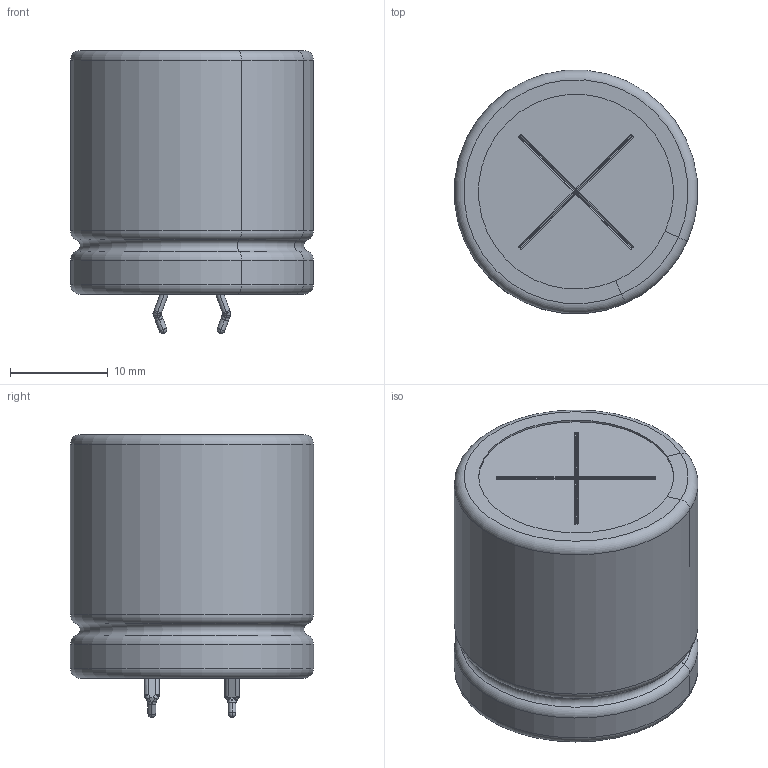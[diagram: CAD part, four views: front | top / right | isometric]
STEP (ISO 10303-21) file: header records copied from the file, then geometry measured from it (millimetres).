
FILE_DESCRIPTION(/* description */ (''),/* implementation_level */ '2;1');
FILE_NAME(/* name */ '25x25_Snap.stp',/* time_stamp */ '2017-09-11T14:35:45+09:00',/* author */ (''),/* organization */ (''),/* preprocessor_version */ 'ST-DEVELOPER v16',/* originating_system */ 'SIEMENS PLM Software NX 11.0',/* authorisation */ '');
FILE_SCHEMA (('AUTOMOTIVE_DESIGN { 1 0 10303 214 3 1 1 1 }'));
Length unit declared in the file: millimetre
Products named in the file (1): 25x25_Snap_0
Bounding box: 24.93 x 24.93 x 29.02 mm (x, y, z)
Volume: 12021.8 mm3; surface area: 7598.6 mm2
Topology: 5 solids, 5 shells, 208 faces, 523 edges, 310 vertices
Faces by surface type: cylinder 76, plane 75, torus 25, sphere 20, bspline 12
Full cylindrical faces by diameter (mm): 4 x2, 24.6 x2
Entity records: 6789 total; most frequent: CARTESIAN_POINT 1265, DIRECTION 1128, ORIENTED_EDGE 988, EDGE_CURVE 494, AXIS2_PLACEMENT_3D 437, VERTEX_POINT 310, LINE 254, VECTOR 254
